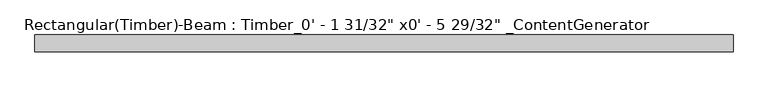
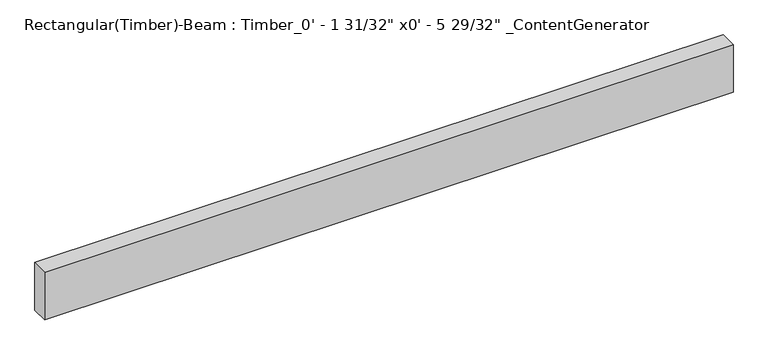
"""IFC4 building model written with IfcOpenShell, lengths in millimetres: beam geometry."""

from ifc_helpers import new_model, si_unit, frame, origin, place, context, project, spatial, polyline, outline, extrude, source, transform, mapped, element, save


def beam_4715e774(model_context):
    return source(origin(), model_context, "Body", "SweptSolid", [
        extrude(outline(polyline([(1041.4, 25.4), (1041.4, -25.4), (-1041.4, -25.4), (-1041.4, 25.4), (1041.4, 25.4)])), frame((0.0, 0.0, -76.2), z_axis=(0.0, 0.0, 1.0), x_axis=(1.0, 0.0, 0.0)), (0.0, 0.0, 1.0), 152.4),
    ])


if __name__ == "__main__":
    model = new_model("IFC4")
    model_context = context("Model", 3, world=origin())
    ifc_project = project(units=[si_unit("LENGTHUNIT", "METRE", prefix="MILLI")], contexts=[model_context])
    site = spatial("IfcSite", under=ifc_project)
    building = spatial("IfcBuilding", under=site)
    placement = place(None, origin())
    beam_shape = beam_4715e774(model_context)
    element("IfcBeam", 1, ObjectType="Rectangular(Timber)-Beam : Timber_0' - 1 31/32\" x0' - 5 29/32\" _ContentGenerator", at=placement, inside=building, context=model_context, shape_type="MappedRepresentation", body=[
        mapped(beam_shape, transform((0.0, 0.0, 0.0), x_axis=(1.0, 0.0, 0.0), y_axis=(0.0, 1.0, 0.0), z_axis=(0.0, 0.0, 1.0))),
    ])
    save(model, "model.ifc")
